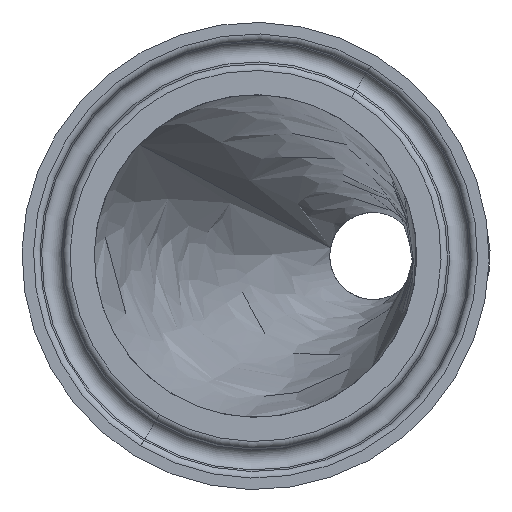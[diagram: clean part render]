
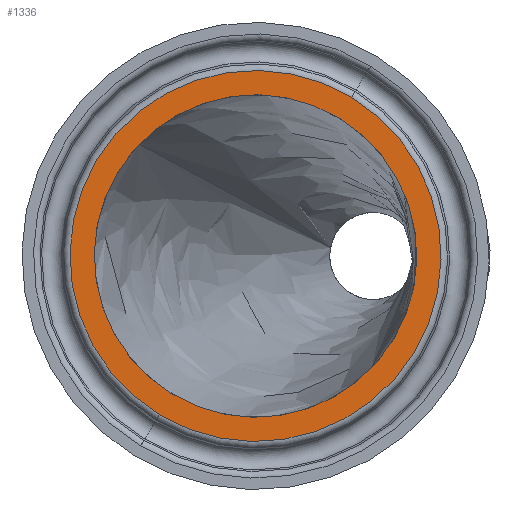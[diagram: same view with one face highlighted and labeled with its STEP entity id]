
A CAD part, left-side view. The second image highlights one B-rep face of the part: STEP entity #1336.
In plain terms, the highlighted planar face has unit normal (-1, 0, 0) as drawn and (0, -1, 0) by its records, which use the part's own axes.
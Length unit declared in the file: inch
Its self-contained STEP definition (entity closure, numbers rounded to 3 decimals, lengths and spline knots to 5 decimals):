
#52 = AXIS2_PLACEMENT_3D ( 'NONE', #548, #1197, #1523 ) ;
#203 = CARTESIAN_POINT ( 'NONE',  ( 0., 0., 0. ) ) ;
#243 = EDGE_CURVE ( 'NONE', #1104, #1792, #890, .T. ) ;
#457 = ORIENTED_EDGE ( 'NONE', *, *, #1604, .F. ) ;
#501 = DIRECTION ( 'NONE',  ( 0., -1., 0. ) ) ;
#548 = CARTESIAN_POINT ( 'NONE',  ( 0., 0., 0. ) ) ;
#588 = CIRCLE ( 'NONE', #1616, 0.78786 ) ;
#627 = AXIS2_PLACEMENT_3D ( 'NONE', #965, #1282, #1640 ) ;
#639 = AXIS2_PLACEMENT_3D ( 'NONE', #962, #501, #1957 ) ;
#658 = CARTESIAN_POINT ( 'NONE',  ( 0., 0., -0.685 ) ) ;
#734 = CARTESIAN_POINT ( 'NONE',  ( 0., 0., 0. ) ) ;
#883 = CIRCLE ( 'NONE', #1532, 0.685 ) ;
#890 = CIRCLE ( 'NONE', #639, 0.78786 ) ;
#962 = CARTESIAN_POINT ( 'NONE',  ( 0., 0., 0. ) ) ;
#965 = CARTESIAN_POINT ( 'NONE',  ( 0., 0., 0. ) ) ;
#970 = ORIENTED_EDGE ( 'NONE', *, *, #1628, .F. ) ;
#1026 = CARTESIAN_POINT ( 'NONE',  ( 0., 0., 0.685 ) ) ;
#1090 = CIRCLE ( 'NONE', #52, 0.685 ) ;
#1104 = VERTEX_POINT ( 'NONE', #1690 ) ;
#1197 = DIRECTION ( 'NONE',  ( 0., -1., 0. ) ) ;
#1282 = DIRECTION ( 'NONE',  ( 0., 1., 0. ) ) ;
#1304 = FACE_BOUND ( 'NONE', #1637, .T. ) ;
#1336 = ADVANCED_FACE ( 'NONE', ( #1304, #1951 ), #1804, .F. ) ;
#1420 = VERTEX_POINT ( 'NONE', #658 ) ;
#1482 = CARTESIAN_POINT ( 'NONE',  ( 0., 0., -0.78786 ) ) ;
#1523 = DIRECTION ( 'NONE',  ( 0., 0., -1. ) ) ;
#1532 = AXIS2_PLACEMENT_3D ( 'NONE', #203, #1826, #1858 ) ;
#1604 = EDGE_CURVE ( 'NONE', #1420, #1871, #1090, .T. ) ;
#1616 = AXIS2_PLACEMENT_3D ( 'NONE', #734, #2040, #1961 ) ;
#1628 = EDGE_CURVE ( 'NONE', #1871, #1420, #883, .T. ) ;
#1637 = EDGE_LOOP ( 'NONE', ( #457, #970 ) ) ;
#1640 = DIRECTION ( 'NONE',  ( 0., 0., 1. ) ) ;
#1690 = CARTESIAN_POINT ( 'NONE',  ( 0., 0., 0.78786 ) ) ;
#1734 = EDGE_LOOP ( 'NONE', ( #1744, #1812 ) ) ;
#1744 = ORIENTED_EDGE ( 'NONE', *, *, #1959, .T. ) ;
#1792 = VERTEX_POINT ( 'NONE', #1482 ) ;
#1804 = PLANE ( 'NONE',  #627 ) ;
#1812 = ORIENTED_EDGE ( 'NONE', *, *, #243, .T. ) ;
#1826 = DIRECTION ( 'NONE',  ( 0., -1., 0. ) ) ;
#1858 = DIRECTION ( 'NONE',  ( 0., 0., -1. ) ) ;
#1871 = VERTEX_POINT ( 'NONE', #1026 ) ;
#1951 = FACE_OUTER_BOUND ( 'NONE', #1734, .T. ) ;
#1957 = DIRECTION ( 'NONE',  ( 0., 0., -1. ) ) ;
#1959 = EDGE_CURVE ( 'NONE', #1792, #1104, #588, .T. ) ;
#1961 = DIRECTION ( 'NONE',  ( 0., 0., -1. ) ) ;
#2040 = DIRECTION ( 'NONE',  ( 0., -1., 0. ) ) ;
